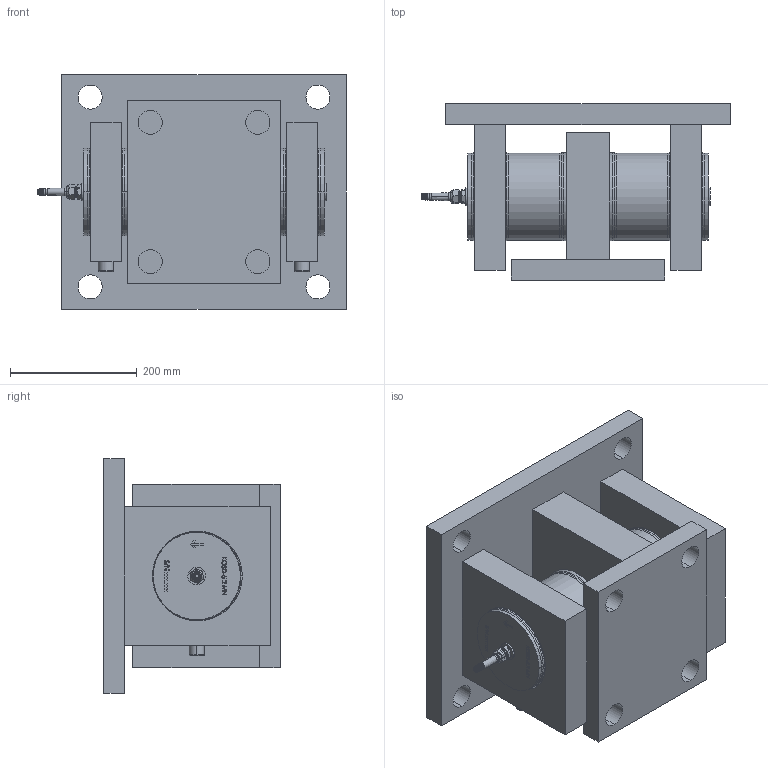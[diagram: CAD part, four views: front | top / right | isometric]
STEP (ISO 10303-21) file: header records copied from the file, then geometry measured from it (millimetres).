
FILE_DESCRIPTION (( 'STEP AP203' ), '1' );
FILE_NAME ('KDH-5 2 MN.STEP', '2020-07-29T10:01:50', ( '' ), ( '' ), 'SwSTEP 2.0', 'SolidWorks 2020', '' );
FILE_SCHEMA (( 'CONFIG_CONTROL_DESIGN' ));
Length unit declared in the file: millimetre
Products named in the file (13): 503944r0; 503945r0; yoke 2 MN; M26x1.5 - Pg9 - 6369829; 503946r0; Pg9 - 1009.52 6_2_14; KDH-5 2 MN; bottom plate 2 MN; ring 2 MN; top plate 2 MN; M26x1.5 - Lock - 600490r1; 503950r0; uni_5931_m16x50-10_9_0
Assembly tree (14 placements, depth 3):
  KDH-5 2 MN
    503945r0
      bottom plate 2 MN
      ring 2 MN  x2
    uni_5931_m16x50-10_9_0  x2
    503950r0
      503944r0
      M26x1.5 - Pg9 - 6369829
      Pg9 - 1009.52 6_2_14
      M26x1.5 - Lock - 600490r1
    503946r0
      top plate 2 MN
      yoke 2 MN
Bounding box: 487.98 x 279 x 370 mm (x, y, z)
Volume: 19330404.4 mm3; surface area: 1275952.9 mm2
Topology: 11 solids, 14 shells, 606 faces, 1476 edges, 932 vertices
Faces by surface type: plane 270, cylinder 126, bspline 85, cone 67, torus 58
Entity records: 22093 total; most frequent: CARTESIAN_POINT 7330, ORIENTED_EDGE 2802, DIRECTION 2682, EDGE_CURVE 1401, AXIS2_PLACEMENT_3D 941, VERTEX_POINT 887, LINE 800, VECTOR 800
